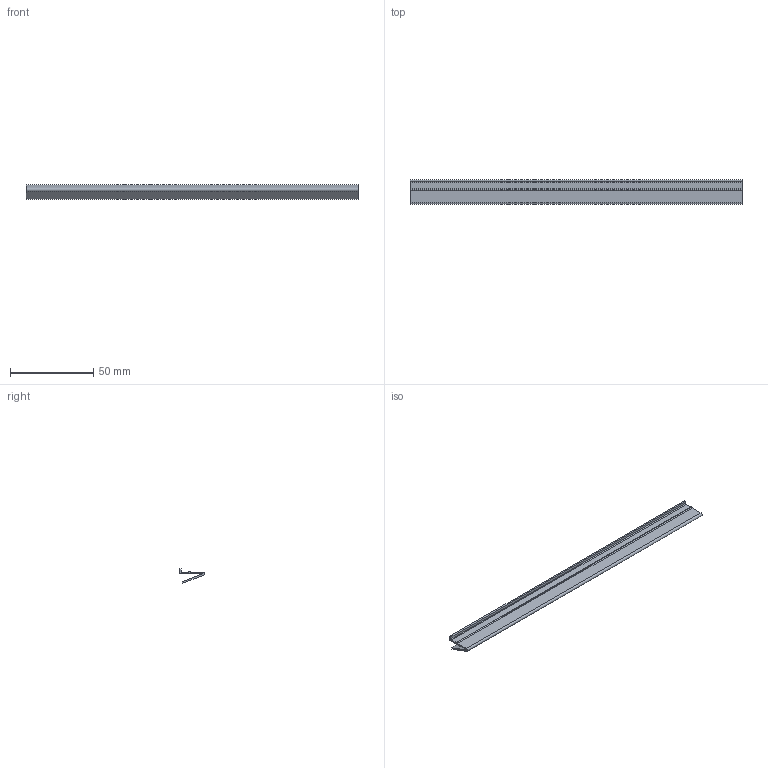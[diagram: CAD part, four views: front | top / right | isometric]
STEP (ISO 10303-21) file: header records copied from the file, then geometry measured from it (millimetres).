
FILE_DESCRIPTION (( 'STEP AP214' ), '1' );
FILE_NAME ('1.6002 Asennuslista 45.STEP', '2024-03-08T12:49:14', ( '' ), ( '' ), 'SwSTEP 2.0', 'SolidWorks 2024', '' );
FILE_SCHEMA (( 'AUTOMOTIVE_DESIGN' ));
Length unit declared in the file: millimetre
Products named in the file (1): 1.6002 Asennuslista 45
Bounding box: 200 x 15 x 8.73 mm (x, y, z)
Volume: 6225 mm3; surface area: 12753.6 mm2
Topology: 1 solids, 1 shells, 17 faces, 45 edges, 30 vertices
Faces by surface type: plane 11, cylinder 6
Entity records: 741 total; most frequent: CARTESIAN_POINT 93, DIRECTION 93, ORIENTED_EDGE 90, EDGE_CURVE 45, LINE 33, VECTOR 33, VERTEX_POINT 30, AXIS2_PLACEMENT_3D 30
